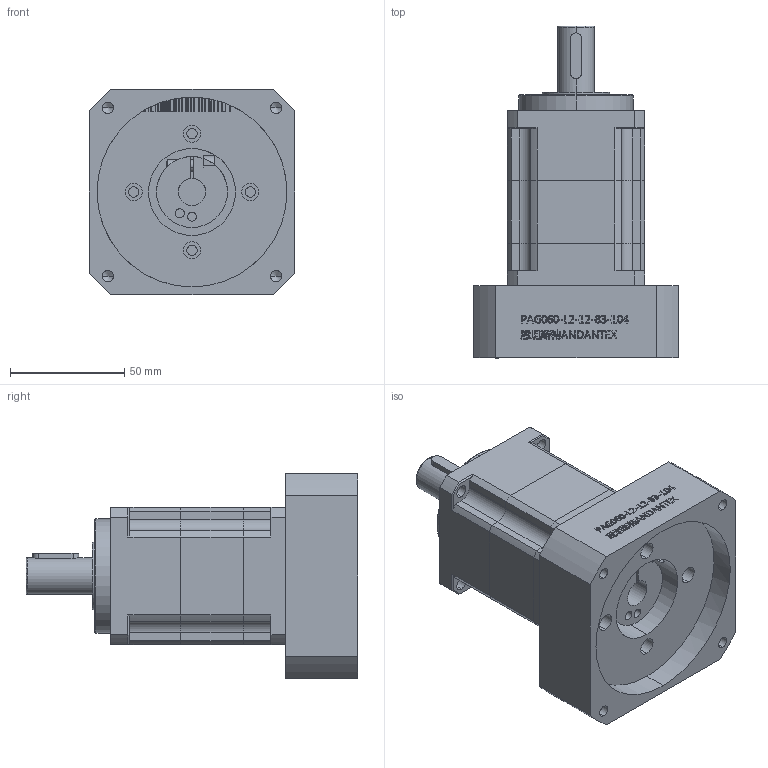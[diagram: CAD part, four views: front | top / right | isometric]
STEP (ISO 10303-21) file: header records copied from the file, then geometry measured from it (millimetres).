
FILE_DESCRIPTION (( 'STEP AP203' ), '1' );
FILE_NAME ('PAG060-L2-12-83-104準梓.STEP', '2024-05-07T03:06:19', ( 'Windows User' ), ( 'P R C' ), 'SwSTEP 2.0', 'SolidWorks 2016', '' );
FILE_SCHEMA (( 'CONFIG_CONTROL_DESIGN' ));
Length unit declared in the file: millimetre
Products named in the file (7): PAG60俋倛芞奻裔啣_72T; PAG60外形图下盖板-分体-12; 邧埴瑩 5x5x20; PAG60外形图二级齿圈_72T; 囀鞠褒蹟佪-M5℅16; PAG60-LJ 83-M6-104-LR42; PAG060-L2-12-83-104準梓
Assembly tree (6 placements, depth 2):
  PAG060-L2-12-83-104準梓
    PAG60俋倛芞奻裔啣_72T
    PAG60外形图下盖板-分体-12
    邧埴瑩 5x5x20
    PAG60外形图二级齿圈_72T
    囀鞠褒蹟佪-M5℅16
    PAG60-LJ 83-M6-104-LR42
Bounding box: 90 x 145 x 90 mm (x, y, z)
Volume: 437560.3 mm3; surface area: 85122.9 mm2
Topology: 7 solids, 7 shells, 897 faces, 2502 edges, 1646 vertices
Faces by surface type: plane 527, bspline 172, cylinder 170, cone 28
Entity records: 36872 total; most frequent: CARTESIAN_POINT 13974, ORIENTED_EDGE 4968, DIRECTION 3967, EDGE_CURVE 2484, LINE 1661, VECTOR 1661, VERTEX_POINT 1646, AXIS2_PLACEMENT_3D 1153
